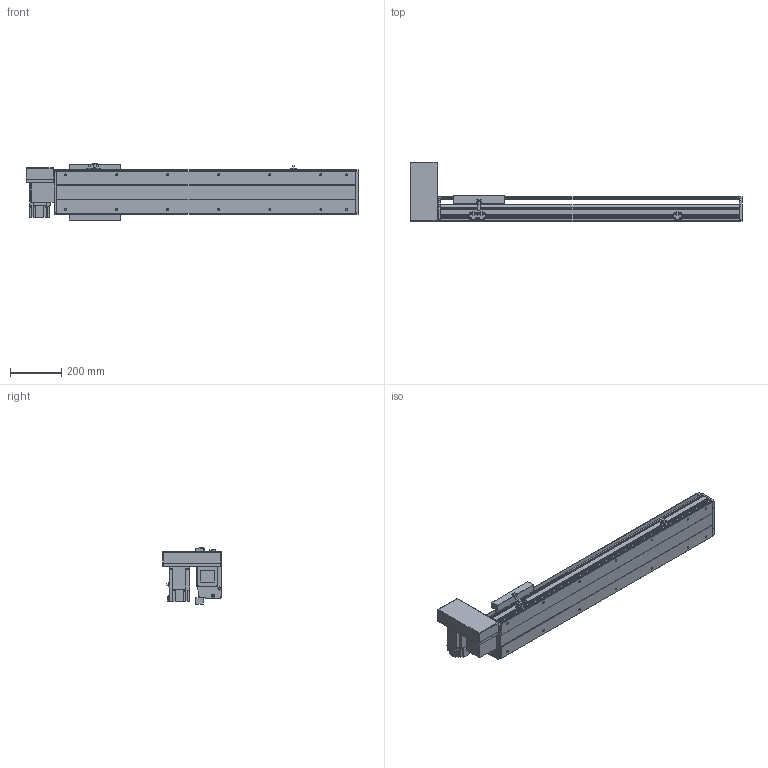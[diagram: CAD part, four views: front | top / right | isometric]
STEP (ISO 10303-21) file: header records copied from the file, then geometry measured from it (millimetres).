
FILE_DESCRIPTION(/* description */ ('STEP AP214'),/* implementation_level */ '2;1');
FILE_NAME(/* name */ 'PBS200-P40-S800-RU-T75-C1-N(0)',/* time_stamp */ '2022-06-11T09:35:09+02:00',/* author */ ('License CC BY-ND 4.0'),/* organization */ ('CADENAS'),/* preprocessor_version */ 'ST-DEVELOPER v18.102',/* originating_system */ 'PARTsolutions',/* authorisation */ ' ');
FILE_SCHEMA (('AUTOMOTIVE_DESIGN {1 0 10303 214 3 1 1}'));
Length unit declared in the file: millimetre
Products named in the file (7): PBS200-P40-S800-RU-T75-C1-N(0); PBS200_sensor; PBS200_plant; PBS200_sliser; T75-p1; PBS200T-RU_motors; PBS200-S800()_body
Assembly tree (8 placements, depth 2):
  PBS200-P40-S800-RU-T75-C1-N(0)
    PBS200_sensor  x3
    PBS200_plant
    PBS200_sliser
    T75-p1
    PBS200T-RU_motors
    PBS200-S800()_body
Bounding box: 1300 x 231 x 221 mm (x, y, z)
Volume: 9988253.9 mm3; surface area: 1622727.1 mm2
Topology: 8 solids, 8 shells, 914 faces, 2364 edges, 1542 vertices
Faces by surface type: plane 572, cylinder 296, cone 46
Full cylindrical faces by diameter (mm): 2.459 x6, 3.242 x4, 4.5 x6, 4.917 x4, 5 x6, 6 x7, 6.6 x8, 6.647 x18, 8 x6, 10 x4, 12 x8, 38 x2, 40 x1, 70 x1
Entity records: 24461 total; most frequent: DIRECTION 4303, CARTESIAN_POINT 4174, ORIENTED_EDGE 3970, EDGE_CURVE 1985, AXIS2_PLACEMENT_3D 1495, VERTEX_POINT 1366, LINE 1313, VECTOR 1313
